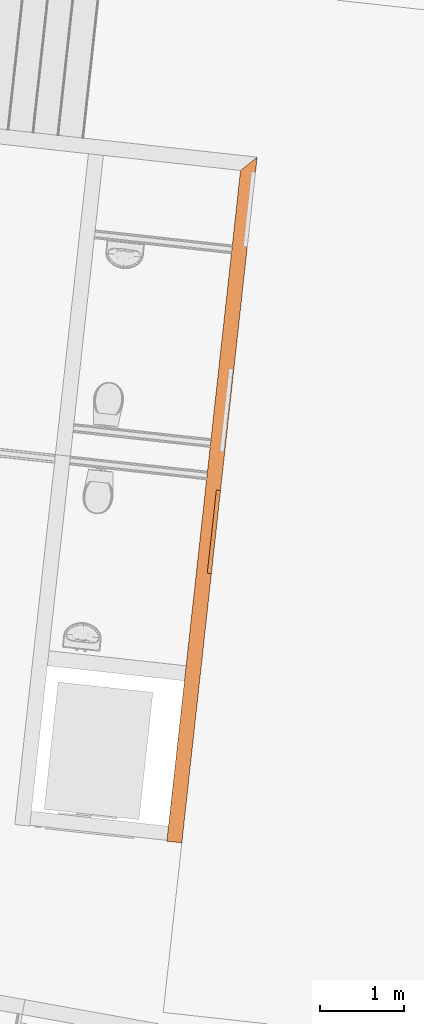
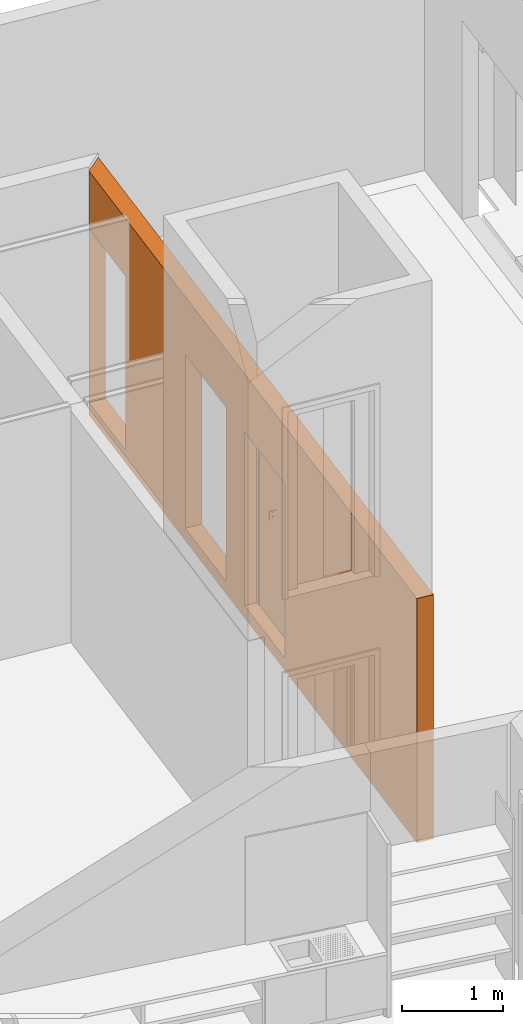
# One storey, part 70 of 79: 2 proxies.
"""IFC2X3 building model written with IfcOpenShell, lengths in metres."""

from ifc_helpers import new_model, entity, si_unit, converted_unit, derived_unit, money_unit, direction, frame, origin_with_axes, place, context, subcontext, project, spatial, polyline, outline, extrude, boolean, faceted_brep, material, type_object, element, save


model = new_model("IFC2X3")

# Units and contexts
model_context = context("Model", 3, precision=1e-05, world=origin_with_axes(), true_north=direction((0.0, 1.0)))
body_context = subcontext(model_context, "Body", "Model", "MODEL_VIEW")
ifc_project = project(units=[si_unit("LENGTHUNIT", "METRE"), si_unit("AREAUNIT", "SQUARE_METRE"), si_unit("VOLUMEUNIT", "CUBIC_METRE"), converted_unit("PLANEANGLEUNIT", "DEGREE", entity("IfcPlaneAngleMeasure", 0.0174532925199), si_unit("PLANEANGLEUNIT", "RADIAN"), dimensions=[0, 0, 0, 0, 0, 0, 0]), money_unit("CHF"), converted_unit("TIMEUNIT", "Year", entity("IfcTimeMeasure", 31556926.0), si_unit("TIMEUNIT", "SECOND"), dimensions=[0, 0, 1, 0, 0, 0, 0]), si_unit("MASSUNIT", "GRAM", prefix="KILO"), si_unit("THERMODYNAMICTEMPERATUREUNIT", "DEGREE_CELSIUS"), si_unit("LUMINOUSINTENSITYUNIT", "LUMEN"), si_unit("ENERGYUNIT", "JOULE", prefix="MEGA"), derived_unit("THERMALCONDUCTANCEUNIT", [(si_unit("POWERUNIT", "WATT"), 1), (si_unit("LENGTHUNIT", "METRE"), -1), (si_unit("THERMODYNAMICTEMPERATUREUNIT", "KELVIN"), -1)]), derived_unit("SPECIFICHEATCAPACITYUNIT", [(si_unit("ENERGYUNIT", "JOULE"), 1), (si_unit("MASSUNIT", "GRAM", prefix="KILO"), -1), (si_unit("THERMODYNAMICTEMPERATUREUNIT", "KELVIN"), -1)]), derived_unit("MASSDENSITYUNIT", [(si_unit("MASSUNIT", "GRAM", prefix="KILO"), 1), (si_unit("VOLUMEUNIT", "CUBIC_METRE"), -1)])], contexts=[model_context])

# Site, building, storey
site_placement = place(None, frame((0.0, 0.0, 0.0), z_axis=(0.0, 0.0, 1.0), x_axis=(-0.177771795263, -0.984071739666, 0.0)))
site = spatial("IfcSite", under=ifc_project, at=site_placement, Name="Site", CompositionType="ELEMENT")
building_placement = place(site_placement, origin_with_axes())
building = spatial("IfcBuilding", under=site, at=building_placement, Name="Bâtiment", CompositionType="ELEMENT")
storey_placement = place(building_placement, origin_with_axes())
storey = spatial("IfcBuildingStorey", under=building, at=storey_placement, Name="RDC", CompositionType="ELEMENT", Elevation=0.0)

# Proxies
ifc_material_1 = material(Name="_BA banché RAL9007")
building_element_proxy_type_1 = type_object("IfcBuildingElementProxyType", Name="_BA banché RAL9007 180", PredefinedType="NOTDEFINED")
proxy_1_placement = place(storey_placement, frame((99.5158098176, -148.844810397, -0.15), z_axis=(0.0, 0.0, 1.0), x_axis=(0.997598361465, 0.0692640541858, 0.0)))
element("IfcBuildingElementProxy", 1, at=proxy_1_placement, inside=storey, type_object=building_element_proxy_type_1, material=ifc_material_1, Name="M refend", context=body_context, shape_type="CSG", body=[
    boolean("DIFFERENCE", boolean("DIFFERENCE", boolean("DIFFERENCE", extrude(outline(polyline([(0.179999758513, -0.18), (8.2496259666, -0.18), (8.2496259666, 0.0), (0.0, 0.0), (0.179999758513, -0.18)])), origin_with_axes(), (0.0, 0.0, 1.0), 2.95), faceted_brep([(0.179999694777, 0.0, 0.15), (0.179999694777, 0.0, 2.25), (1.07999969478, 0.0, 2.25), (1.07999969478, 0.0, 0.15), (0.179999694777, -0.18, 0.15), (0.179999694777, -0.18, 2.25), (1.07999969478, -0.18, 2.25), (1.07999969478, -0.18, 0.15)], [[[0, 1, 2, 3]], [[4, 5, 1, 0]], [[5, 6, 2, 1]], [[6, 7, 3, 2]], [[7, 4, 0, 3]], [[4, 7, 6, 5]]])), faceted_brep([(2.55, 0.0, 0.15), (2.55, 0.0, 2.25), (3.55, 0.0, 2.25), (3.55, 0.0, 0.15), (2.55, -0.18, 0.15), (2.55, -0.18, 2.25), (3.55, -0.18, 2.25), (3.55, -0.18, 0.15)], [[[0, 1, 2, 3]], [[4, 5, 1, 0]], [[5, 6, 2, 1]], [[6, 7, 3, 2]], [[7, 4, 0, 3]], [[4, 7, 6, 5]]])), faceted_brep([(4.01, 0.0, 0.15), (4.01, 0.0, 2.25), (5.01, 0.0, 2.25), (5.01, 0.0, 0.15), (4.01, -0.18, 0.15), (4.01, -0.18, 2.25), (5.01, -0.18, 2.25), (5.01, -0.18, 0.15)], [[[0, 1, 2, 3]], [[4, 5, 1, 0]], [[5, 6, 2, 1]], [[6, 7, 3, 2]], [[7, 4, 0, 3]], [[4, 7, 6, 5]]])),
])
ifc_material_2 = material(Name="Matériau de construction IFC")
building_element_proxy_type_2 = type_object("IfcBuildingElementProxyType", Name="Porte 21", PredefinedType="NOTDEFINED")
proxy_2_placement = place(storey_placement, frame((103.516179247, -148.56706154, 0.0), z_axis=(0.0, 0.0, 1.0), x_axis=(0.997598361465, 0.0692640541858, 0.0)))
element("IfcBuildingElementProxy", 2, at=proxy_2_placement, inside=storey, type_object=building_element_proxy_type_2, material=ifc_material_2, Name="22", context=body_context, shape_type="Brep", body=[
    faceted_brep([(0.95, -0.04, 0.0), (0.95, -0.05, 0.0), (0.95, -0.05, 2.05), (0.95, -0.04, 2.05), (0.962, -0.04, 0.0), (0.962, 0.0, 0.0), (1.0, 0.0, 0.0), (1.0, -0.05, 0.0), (1.0, -0.05, 2.05), (0.962, -0.04, 2.05), (1.0, 0.0, 2.05), (0.962, 0.0, 2.05)], [[[0, 1, 2, 3]], [[4, 5, 6, 7, 1, 0]], [[1, 7, 8, 2]], [[9, 3, 2, 8, 10, 11]], [[9, 4, 0, 3]], [[11, 5, 4, 9]], [[11, 10, 6, 5]], [[6, 10, 8, 7]]]),
    faceted_brep([(0.038, -0.04, 2.05), (0.038, 0.0, 2.05), (0.0, 0.0, 2.05), (0.0, -0.05, 2.05), (0.05, -0.05, 2.05), (0.05, -0.04, 2.05), (0.038, -0.04, 0.0), (0.038, 0.0, 0.0), (0.0, 0.0, 0.0), (0.0, -0.05, 0.0), (0.05, -0.05, 0.0), (0.05, -0.04, 0.0)], [[[0, 1, 2, 3, 4, 5]], [[0, 6, 7, 1]], [[7, 8, 2, 1]], [[2, 8, 9, 3]], [[3, 9, 10, 4]], [[5, 4, 10, 11]], [[5, 11, 6, 0]], [[6, 11, 10, 9, 8, 7]]]),
    faceted_brep([(0.962, 0.0, 2.062), (0.038, 0.0, 2.062), (0.038, 0.0, 2.05), (0.0, 0.0, 2.05), (0.0, 0.0, 2.1), (1.0, 0.0, 2.1), (1.0, 0.0, 2.05), (0.962, 0.0, 2.05), (0.962, -0.04, 2.062), (0.038, -0.04, 2.062), (0.038, -0.04, 2.05), (0.05, -0.04, 2.05), (0.05, -0.05, 2.05), (0.0, -0.05, 2.05), (0.0, -0.05, 2.1), (1.0, -0.05, 2.1), (1.0, -0.05, 2.05), (0.962, -0.04, 2.05), (0.95, -0.05, 2.05), (0.95, -0.04, 2.05)], [[[0, 1, 2, 3, 4, 5, 6, 7]], [[0, 8, 9, 1]], [[1, 9, 10, 2]], [[10, 11, 12, 13, 3, 2]], [[4, 3, 13, 14]], [[5, 4, 14, 15]], [[6, 5, 15, 16]], [[17, 7, 6, 16, 18, 19]], [[7, 17, 8, 0]], [[10, 9, 8, 17, 19, 11]], [[19, 18, 12, 11]], [[12, 18, 16, 15, 14, 13]]]),
    faceted_brep([(0.038, -0.01, 0.0), (0.962, -0.01, 0.0), (0.962, -0.04, 0.0), (0.038, -0.04, 0.0), (0.038, -0.01, 2.062), (0.962, -0.01, 2.062), (0.962, -0.04, 2.062), (0.038, -0.04, 2.062)], [[[0, 1, 2, 3]], [[0, 4, 5, 1]], [[1, 5, 6, 2]], [[3, 2, 6, 7]], [[4, 0, 3, 7]], [[5, 4, 7, 6]]]),
])

save(model, "model.ifc")
